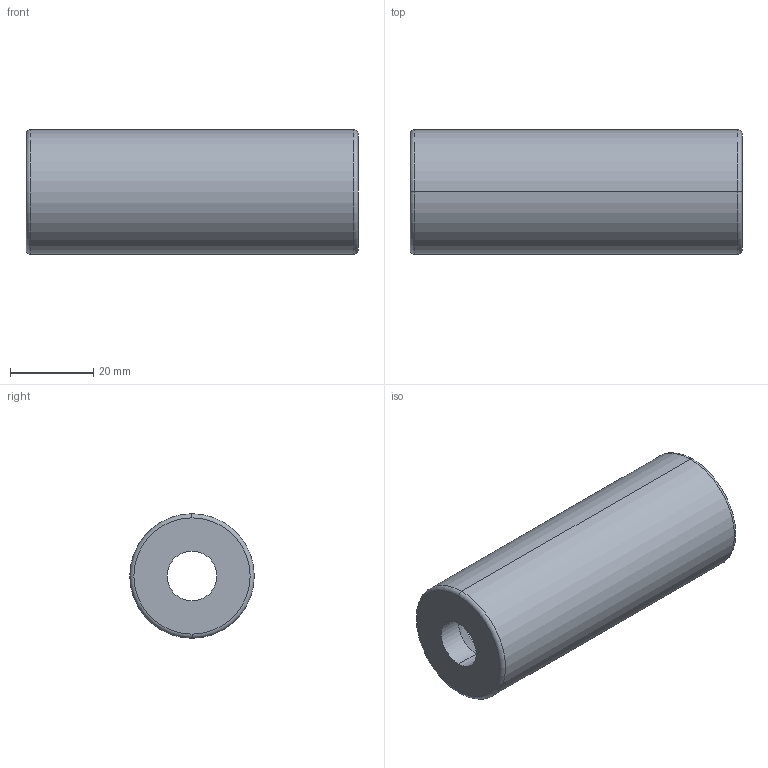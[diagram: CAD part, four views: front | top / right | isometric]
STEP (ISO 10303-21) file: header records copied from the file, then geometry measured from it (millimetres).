
FILE_DESCRIPTION (( 'STEP AP214' ), '1' );
FILE_NAME ('BR20 30x080.STEP', '2020-01-21T11:31:47', ( 'August' ), ( '' ), 'SwSTEP 2.0', 'SolidWorks 2018', '' );
FILE_SCHEMA (( 'AUTOMOTIVE_DESIGN' ));
Length unit declared in the file: millimetre
Products named in the file (1): BR20 30x080
Bounding box: 80 x 30 x 30 mm (x, y, z)
Volume: 18183.5 mm3; surface area: 14517.5 mm2
Topology: 1 solids, 1 shells, 14 faces, 28 edges, 16 vertices
Faces by surface type: cylinder 6, torus 4, cone 2, plane 2
Entity records: 406 total; most frequent: DIRECTION 78, CARTESIAN_POINT 59, ORIENTED_EDGE 56, AXIS2_PLACEMENT_3D 35, EDGE_CURVE 28, CIRCLE 20, VERTEX_POINT 16, EDGE_LOOP 16
